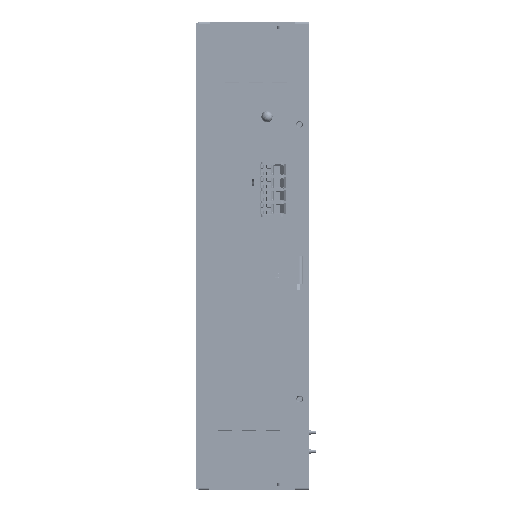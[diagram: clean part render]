
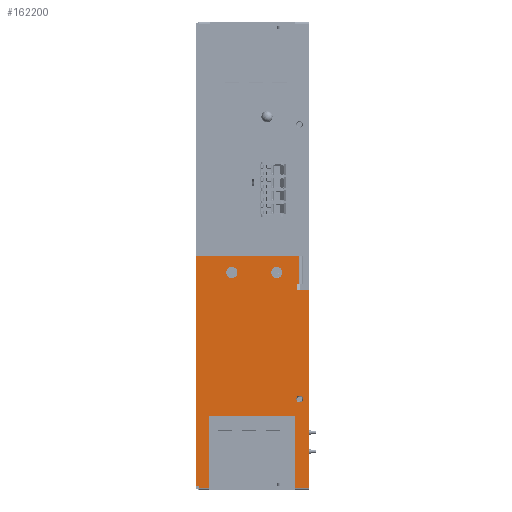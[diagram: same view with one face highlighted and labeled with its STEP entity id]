
A CAD part, left-side view. The second image highlights one B-rep face of the part: STEP entity #162200.
In plain terms, the highlighted planar face has unit normal (-1, 0, 0).
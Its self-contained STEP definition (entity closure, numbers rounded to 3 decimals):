
#51270=CARTESIAN_POINT('',(-27.647,60.886,0.));
#51280=DIRECTION('',(0.,0.,-1.));
#51290=VECTOR('',#51280,1.);
#51300=LINE('',#51270,#51290);
#65040=CARTESIAN_POINT('',(-27.647,31.686,
3.5));
#65050=VERTEX_POINT('',#65040);
#65450=CARTESIAN_POINT('',(-27.647,31.686,-49.4)
);
#65460=VERTEX_POINT('',#65450);
#65490=CARTESIAN_POINT('',(-27.647,31.686,0.));
#65500=DIRECTION('',(0.,0.,-1.));
#65510=VECTOR('',#65500,1.);
#65520=LINE('',#65490,#65510);
#65530=EDGE_CURVE('',#65050,#65460,#65520,.T.);
#65890=CARTESIAN_POINT('',(-27.647,31.986,92.23)
);
#65900=DIRECTION('',(-1.,0.,0.));
#65910=DIRECTION('',(0.,0.,1.));
#65920=AXIS2_PLACEMENT_3D('',#65890,#65900,#65910);
#65930=PLANE('',#65920);
#67490=CARTESIAN_POINT('',(-27.647,61.886,
-48.4));
#67500=DIRECTION('',(0.,0.,1.));
#67510=VECTOR('',#67500,1.);
#67520=LINE('',#67490,#67510);
#67700=CARTESIAN_POINT('',(-27.647,34.186,
5.2));
#67710=VERTEX_POINT('',#67700);
#67740=CARTESIAN_POINT('',(-27.647,34.186,0.));
#67750=DIRECTION('',(0.,0.,1.));
#67760=VECTOR('',#67750,1.);
#67770=LINE('',#67740,#67760);
#67780=CARTESIAN_POINT('',(-27.647,34.186,
12.6));
#67790=VERTEX_POINT('',#67780);
#67800=EDGE_CURVE('',#67710,#67790,#67770,.T.);
#157800=CARTESIAN_POINT('',(-27.647,34.886,
5.2));
#157810=VERTEX_POINT('',#157800);
#157840=CARTESIAN_POINT('',(-27.647,0.,5.2));
#157850=DIRECTION('',(0.,-1.,0.));
#157860=VECTOR('',#157850,1.);
#157870=LINE('',#157840,#157860);
#157880=EDGE_CURVE('',#157810,#67710,#157870,.T.);
#160890=CARTESIAN_POINT('',(-27.647,52.186,
8.28));
#160900=DIRECTION('',(1.,0.,0.));
#160910=DIRECTION('',(0.,0.,1.));
#160920=AXIS2_PLACEMENT_3D('',#160890,#160900,#160910);
#160930=CIRCLE('',#160920,1.5);
#160940=CARTESIAN_POINT('',(-27.647,52.186,
9.78));
#160950=VERTEX_POINT('',#160940);
#160960=CARTESIAN_POINT('',(-27.647,52.186,
6.78));
#160970=VERTEX_POINT('',#160960);
#160980=EDGE_CURVE('',#160950,#160970,#160930,.T.);
#160990=ORIENTED_EDGE('',*,*,#160980,.T.);
#161000=EDGE_CURVE('',#160970,#160950,#160930,.T.);
#161010=ORIENTED_EDGE('',*,*,#161000,.T.);
#161020=EDGE_LOOP('',(#161010,#160990));
#161030=FACE_BOUND('',#161020,.T.);
#161040=CARTESIAN_POINT('',(-27.647,40.186,
8.28));
#161050=DIRECTION('',(1.,0.,0.));
#161060=DIRECTION('',(0.,0.,1.));
#161070=AXIS2_PLACEMENT_3D('',#161040,#161050,#161060);
#161080=CIRCLE('',#161070,1.5);
#161090=CARTESIAN_POINT('',(-27.647,40.186,
9.78));
#161100=VERTEX_POINT('',#161090);
#161110=CARTESIAN_POINT('',(-27.647,40.186,
6.78));
#161120=VERTEX_POINT('',#161110);
#161130=EDGE_CURVE('',#161100,#161120,#161080,.T.);
#161140=ORIENTED_EDGE('',*,*,#161130,.T.);
#161150=EDGE_CURVE('',#161120,#161100,#161080,.T.);
#161160=ORIENTED_EDGE('',*,*,#161150,.T.);
#161170=EDGE_LOOP('',(#161160,#161140));
#161180=FACE_BOUND('',#161170,.T.);
#161190=CARTESIAN_POINT('',(-27.647,34.086,
-25.574));
#161200=DIRECTION('',(1.,0.,0.));
#161210=DIRECTION('',(0.,0.,-1.));
#161220=AXIS2_PLACEMENT_3D('',#161190,#161200,#161210);
#161230=CIRCLE('',#161220,0.902);
#161240=CARTESIAN_POINT('',(-27.647,34.086,
-24.672));
#161250=VERTEX_POINT('',#161240);
#161260=CARTESIAN_POINT('',(-27.647,34.086,
-26.475));
#161270=VERTEX_POINT('',#161260);
#161280=EDGE_CURVE('',#161250,#161270,#161230,.T.);
#161290=ORIENTED_EDGE('',*,*,#161280,.T.);
#161300=EDGE_CURVE('',#161270,#161250,#161230,.T.);
#161310=ORIENTED_EDGE('',*,*,#161300,.T.);
#161320=EDGE_LOOP('',(#161310,#161290));
#161330=FACE_BOUND('',#161320,.T.);
#161340=CARTESIAN_POINT('',(-27.647,8.,12.6));
#161350=DIRECTION('',(0.,1.,0.));
#161360=VECTOR('',#161350,1.);
#161370=LINE('',#161340,#161360);
#161380=CARTESIAN_POINT('',(-27.647,61.886,
12.6));
#161390=VERTEX_POINT('',#161380);
#161400=EDGE_CURVE('',#67790,#161390,#161370,.T.);
#161410=ORIENTED_EDGE('',*,*,#161400,.T.);
#161420=ORIENTED_EDGE('',*,*,#67800,.T.);
#161430=ORIENTED_EDGE('',*,*,#157880,.T.);
#161440=CARTESIAN_POINT('',(-27.647,34.886,0.));
#161450=DIRECTION('',(0.,0.,1.));
#161460=VECTOR('',#161450,1.);
#161470=LINE('',#161440,#161460);
#161480=CARTESIAN_POINT('',(-27.647,34.886,
3.5));
#161490=VERTEX_POINT('',#161480);
#161500=EDGE_CURVE('',#161490,#157810,#161470,.T.);
#161510=ORIENTED_EDGE('',*,*,#161500,.T.);
#161520=CARTESIAN_POINT('',(-27.647,0.,3.5));
#161530=DIRECTION('',(0.,1.,0.));
#161540=VECTOR('',#161530,1.);
#161550=LINE('',#161520,#161540);
#161560=EDGE_CURVE('',#65050,#161490,#161550,.T.);
#161570=ORIENTED_EDGE('',*,*,#161560,.T.);
#161580=ORIENTED_EDGE('',*,*,#65530,.F.);
#161590=CARTESIAN_POINT('',(-27.647,0.,-49.4));
#161600=DIRECTION('',(0.,1.,0.));
#161610=VECTOR('',#161600,1.);
#161620=LINE('',#161590,#161610);
#161630=CARTESIAN_POINT('',(-27.647,35.338,
-49.4));
#161640=VERTEX_POINT('',#161630);
#161650=EDGE_CURVE('',#65460,#161640,#161620,.T.);
#161660=ORIENTED_EDGE('',*,*,#161650,.F.);
#161670=CARTESIAN_POINT('',(-27.647,35.338,0.));
#161680=DIRECTION('',(0.,0.,-1.));
#161690=VECTOR('',#161680,1.);
#161700=LINE('',#161670,#161690);
#161710=CARTESIAN_POINT('',(-27.647,35.338,
-30.05));
#161720=VERTEX_POINT('',#161710);
#161730=EDGE_CURVE('',#161720,#161640,#161700,.T.);
#161740=ORIENTED_EDGE('',*,*,#161730,.T.);
#161750=CARTESIAN_POINT('',(-27.647,0.,-30.05));
#161760=DIRECTION('',(0.,-1.,0.));
#161770=VECTOR('',#161760,1.);
#161780=LINE('',#161750,#161770);
#161790=CARTESIAN_POINT('',(-27.647,58.188,
-30.05));
#161800=VERTEX_POINT('',#161790);
#161810=EDGE_CURVE('',#161800,#161720,#161780,.T.);
#161820=ORIENTED_EDGE('',*,*,#161810,.T.);
#161830=CARTESIAN_POINT('',(-27.647,58.188,0.));
#161840=DIRECTION('',(0.,0.,1.));
#161850=VECTOR('',#161840,1.);
#161860=LINE('',#161830,#161850);
#161870=CARTESIAN_POINT('',(-27.647,58.188,
-49.4));
#161880=VERTEX_POINT('',#161870);
#161890=EDGE_CURVE('',#161880,#161800,#161860,.T.);
#161900=ORIENTED_EDGE('',*,*,#161890,.T.);
#161910=CARTESIAN_POINT('',(-27.647,60.886,
-49.4));
#161920=VERTEX_POINT('',#161910);
#161930=EDGE_CURVE('',#161880,#161920,#161620,.T.);
#161940=ORIENTED_EDGE('',*,*,#161930,.F.);
#161950=CARTESIAN_POINT('',(-27.647,60.886,-48.9
));
#161960=VERTEX_POINT('',#161950);
#161970=EDGE_CURVE('',#161960,#161920,#51300,.T.);
#161980=ORIENTED_EDGE('',*,*,#161970,.T.);
#161990=CARTESIAN_POINT('',(-27.647,60.886,-48.9
));
#162000=DIRECTION('',(0.,1.,0.));
#162010=VECTOR('',#162000,1.);
#162020=LINE('',#161990,#162010);
#162030=CARTESIAN_POINT('',(-27.647,61.386,
-48.9));
#162040=VERTEX_POINT('',#162030);
#162050=EDGE_CURVE('',#161960,#162040,#162020,.T.);
#162060=ORIENTED_EDGE('',*,*,#162050,.F.);
#162070=CARTESIAN_POINT('',(-27.647,61.386,
-48.4));
#162080=DIRECTION('',(1.,0.,0.));
#162090=DIRECTION('',(0.,-1.,0.));
#162100=AXIS2_PLACEMENT_3D('',#162070,#162080,#162090);
#162110=CIRCLE('',#162100,0.5);
#162120=CARTESIAN_POINT('',(-27.647,61.886,
-48.4));
#162130=VERTEX_POINT('',#162120);
#162140=EDGE_CURVE('',#162040,#162130,#162110,.T.);
#162150=ORIENTED_EDGE('',*,*,#162140,.F.);
#162160=EDGE_CURVE('',#162130,#161390,#67520,.T.);
#162170=ORIENTED_EDGE('',*,*,#162160,.F.);
#162180=EDGE_LOOP('',(#162170,#162150,#162060,#161980,#161940,#161900,
#161820,#161740,#161660,#161580,#161570,#161510,#161430,#161420,#161410)
);
#162190=FACE_OUTER_BOUND('',#162180,.T.);
#162200=ADVANCED_FACE('',(#161030,#161180,#161330,#162190),#65930,.T.);
